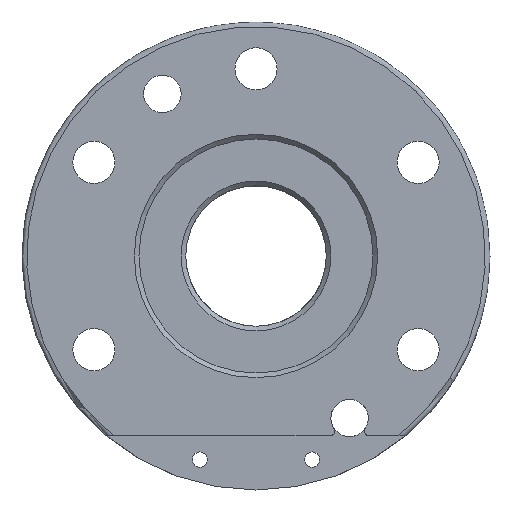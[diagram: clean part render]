
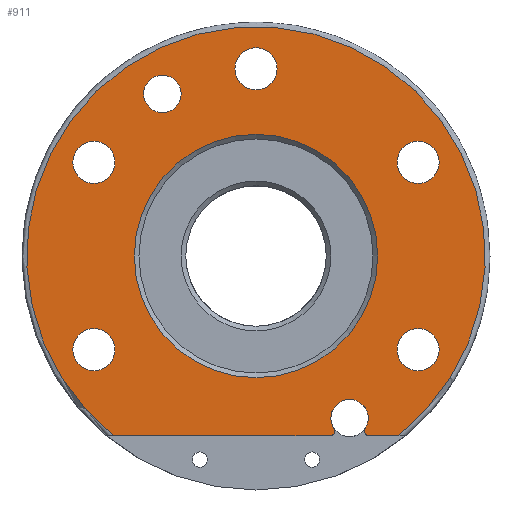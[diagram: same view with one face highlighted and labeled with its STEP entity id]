
A CAD part, front view. The second image highlights one B-rep face of the part: STEP entity #911.
In plain terms, the highlighted planar face has unit normal (0, -1, 0).
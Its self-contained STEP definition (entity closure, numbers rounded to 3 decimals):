
#67=FACE_BOUND('',#165,.T.);
#68=FACE_BOUND('',#166,.T.);
#69=FACE_BOUND('',#167,.T.);
#70=FACE_BOUND('',#168,.T.);
#71=FACE_BOUND('',#169,.T.);
#72=FACE_BOUND('',#170,.T.);
#73=FACE_BOUND('',#171,.T.);
#84=PLANE('',#1000);
#104=FACE_OUTER_BOUND('',#164,.T.);
#164=EDGE_LOOP('',(#625,#626,#627,#628,#629,#630,#631));
#165=EDGE_LOOP('',(#632));
#166=EDGE_LOOP('',(#633));
#167=EDGE_LOOP('',(#634));
#168=EDGE_LOOP('',(#635));
#169=EDGE_LOOP('',(#636));
#170=EDGE_LOOP('',(#637));
#171=EDGE_LOOP('',(#638));
#228=LINE('',#1411,#277);
#231=LINE('',#1434,#280);
#277=VECTOR('',#1139,10.);
#280=VECTOR('',#1150,10.);
#336=CIRCLE('',#997,1.);
#338=CIRCLE('',#1001,4.);
#339=CIRCLE('',#1002,4.);
#340=CIRCLE('',#1003,1.);
#341=CIRCLE('',#1004,49.);
#342=CIRCLE('',#1005,26.);
#343=CIRCLE('',#1006,4.5);
#344=CIRCLE('',#1007,4.5);
#345=CIRCLE('',#1008,4.5);
#346=CIRCLE('',#1009,4.5);
#347=CIRCLE('',#1010,4.5);
#348=CIRCLE('',#1011,4.);
#398=VERTEX_POINT('',#1401);
#399=VERTEX_POINT('',#1402);
#402=VERTEX_POINT('',#1410);
#405=VERTEX_POINT('',#1427);
#406=VERTEX_POINT('',#1429);
#407=VERTEX_POINT('',#1431);
#408=VERTEX_POINT('',#1433);
#409=VERTEX_POINT('',#1436);
#410=VERTEX_POINT('',#1438);
#411=VERTEX_POINT('',#1440);
#412=VERTEX_POINT('',#1442);
#413=VERTEX_POINT('',#1444);
#414=VERTEX_POINT('',#1446);
#415=VERTEX_POINT('',#1448);
#484=EDGE_CURVE('',#398,#399,#336,.T.);
#488=EDGE_CURVE('',#402,#399,#228,.T.);
#492=EDGE_CURVE('',#398,#405,#338,.T.);
#493=EDGE_CURVE('',#405,#406,#339,.T.);
#494=EDGE_CURVE('',#407,#406,#340,.T.);
#495=EDGE_CURVE('',#407,#408,#231,.T.);
#496=EDGE_CURVE('',#402,#408,#341,.T.);
#497=EDGE_CURVE('',#409,#409,#342,.T.);
#498=EDGE_CURVE('',#410,#410,#343,.T.);
#499=EDGE_CURVE('',#411,#411,#344,.T.);
#500=EDGE_CURVE('',#412,#412,#345,.T.);
#501=EDGE_CURVE('',#413,#413,#346,.T.);
#502=EDGE_CURVE('',#414,#414,#347,.T.);
#503=EDGE_CURVE('',#415,#415,#348,.T.);
#625=ORIENTED_EDGE('',*,*,#484,.F.);
#626=ORIENTED_EDGE('',*,*,#492,.T.);
#627=ORIENTED_EDGE('',*,*,#493,.T.);
#628=ORIENTED_EDGE('',*,*,#494,.F.);
#629=ORIENTED_EDGE('',*,*,#495,.T.);
#630=ORIENTED_EDGE('',*,*,#496,.F.);
#631=ORIENTED_EDGE('',*,*,#488,.T.);
#632=ORIENTED_EDGE('',*,*,#497,.F.);
#633=ORIENTED_EDGE('',*,*,#498,.T.);
#634=ORIENTED_EDGE('',*,*,#499,.T.);
#635=ORIENTED_EDGE('',*,*,#500,.T.);
#636=ORIENTED_EDGE('',*,*,#501,.T.);
#637=ORIENTED_EDGE('',*,*,#502,.T.);
#638=ORIENTED_EDGE('',*,*,#503,.T.);
#911=ADVANCED_FACE('',(#104,#67,#68,#69,#70,#71,#72,#73),#84,.T.);
#997=AXIS2_PLACEMENT_3D('',#1403,#1131,#1132);
#1000=AXIS2_PLACEMENT_3D('',#1426,#1142,#1143);
#1001=AXIS2_PLACEMENT_3D('',#1428,#1144,#1145);
#1002=AXIS2_PLACEMENT_3D('',#1430,#1146,#1147);
#1003=AXIS2_PLACEMENT_3D('',#1432,#1148,#1149);
#1004=AXIS2_PLACEMENT_3D('',#1435,#1151,#1152);
#1005=AXIS2_PLACEMENT_3D('',#1437,#1153,#1154);
#1006=AXIS2_PLACEMENT_3D('',#1439,#1155,#1156);
#1007=AXIS2_PLACEMENT_3D('',#1441,#1157,#1158);
#1008=AXIS2_PLACEMENT_3D('',#1443,#1159,#1160);
#1009=AXIS2_PLACEMENT_3D('',#1445,#1161,#1162);
#1010=AXIS2_PLACEMENT_3D('',#1447,#1163,#1164);
#1011=AXIS2_PLACEMENT_3D('',#1449,#1165,#1166);
#1131=DIRECTION('center_axis',(0.,1.,0.));
#1132=DIRECTION('ref_axis',(0.881,0.,-0.473));
#1139=DIRECTION('',(1.,0.,0.));
#1142=DIRECTION('center_axis',(0.,-1.,0.));
#1143=DIRECTION('ref_axis',(0.,0.,-1.));
#1144=DIRECTION('center_axis',(0.,1.,0.));
#1145=DIRECTION('ref_axis',(1.,0.,0.));
#1146=DIRECTION('center_axis',(0.,1.,0.));
#1147=DIRECTION('ref_axis',(1.,0.,0.));
#1148=DIRECTION('center_axis',(0.,1.,0.));
#1149=DIRECTION('ref_axis',(-0.881,0.,-0.473));
#1150=DIRECTION('',(1.,0.,0.));
#1151=DIRECTION('center_axis',(0.,1.,0.));
#1152=DIRECTION('ref_axis',(0.,0.,
1.));
#1153=DIRECTION('center_axis',(0.,-1.,0.));
#1154=DIRECTION('ref_axis',(1.,0.,0.));
#1155=DIRECTION('center_axis',(0.,1.,0.));
#1156=DIRECTION('ref_axis',(1.,0.,0.));
#1157=DIRECTION('center_axis',(0.,1.,0.));
#1158=DIRECTION('ref_axis',(1.,0.,0.));
#1159=DIRECTION('center_axis',(0.,1.,0.));
#1160=DIRECTION('ref_axis',(1.,0.,0.));
#1161=DIRECTION('center_axis',(0.,1.,0.));
#1162=DIRECTION('ref_axis',(1.,0.,0.));
#1163=DIRECTION('center_axis',(0.,1.,0.));
#1164=DIRECTION('ref_axis',(1.,0.,0.));
#1165=DIRECTION('center_axis',(0.,1.,0.));
#1166=DIRECTION('ref_axis',(1.,0.,0.));
#1401=CARTESIAN_POINT('',(16.664,0.,-36.848));
#1402=CARTESIAN_POINT('',(15.83,0.,-38.4));
#1403=CARTESIAN_POINT('Origin',(15.83,0.,-37.4));
#1410=CARTESIAN_POINT('',(-30.437,0.,-38.4));
#1411=CARTESIAN_POINT('',(-2.739,0.,-38.4));
#1426=CARTESIAN_POINT('Origin',(-37.5,0.,0.));
#1427=CARTESIAN_POINT('',(16.,0.,-34.641));
#1428=CARTESIAN_POINT('Origin',(20.,0.,-34.641));
#1429=CARTESIAN_POINT('',(23.336,0.,-36.848));
#1430=CARTESIAN_POINT('Origin',(20.,0.,-34.641));
#1431=CARTESIAN_POINT('',(24.17,0.,-38.4));
#1432=CARTESIAN_POINT('Origin',(24.17,0.,-37.4));
#1433=CARTESIAN_POINT('',(30.437,0.,-38.4));
#1434=CARTESIAN_POINT('',(-2.739,0.,-38.4));
#1435=CARTESIAN_POINT('Origin',(0.,0.,
0.));
#1436=CARTESIAN_POINT('',(-26.,0.,0.));
#1437=CARTESIAN_POINT('Origin',(0.,0.,
0.));
#1438=CARTESIAN_POINT('',(-39.141,0.,-20.));
#1439=CARTESIAN_POINT('Origin',(-34.641,0.,-20.));
#1440=CARTESIAN_POINT('',(-39.141,0.,20.));
#1441=CARTESIAN_POINT('Origin',(-34.641,0.,20.));
#1442=CARTESIAN_POINT('',(-4.5,0.,40.));
#1443=CARTESIAN_POINT('Origin',(0.,0.,
40.));
#1444=CARTESIAN_POINT('',(30.141,0.,20.));
#1445=CARTESIAN_POINT('Origin',(34.641,0.,20.));
#1446=CARTESIAN_POINT('',(30.141,0.,-20.));
#1447=CARTESIAN_POINT('Origin',(34.641,0.,-20.));
#1448=CARTESIAN_POINT('',(-24.,0.,34.641));
#1449=CARTESIAN_POINT('Origin',(-20.,0.,34.641));
